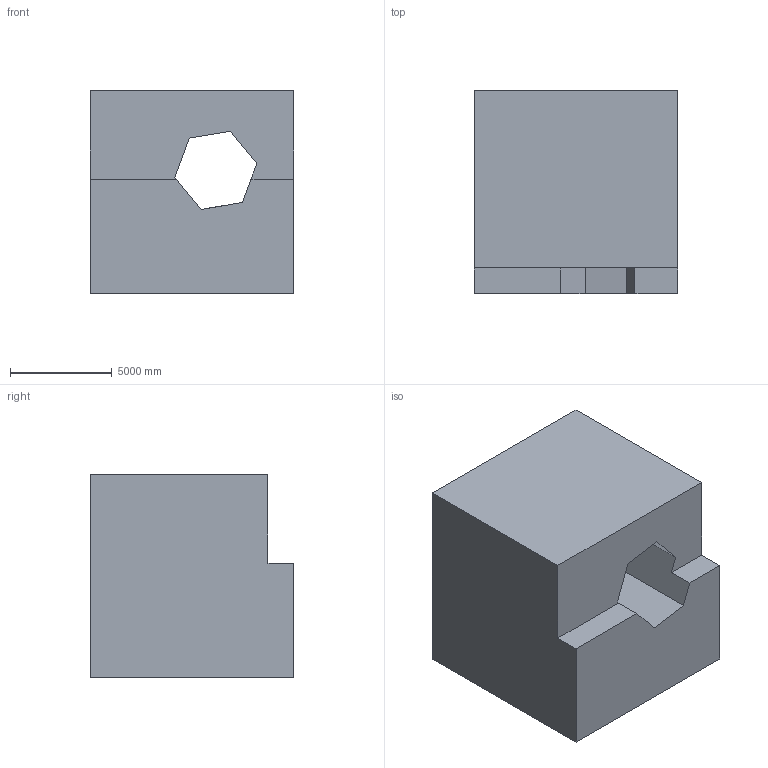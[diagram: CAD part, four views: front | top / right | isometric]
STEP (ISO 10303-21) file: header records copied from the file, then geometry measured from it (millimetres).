
FILE_DESCRIPTION (( 'STEP AP203' ), '1' );
FILE_NAME ('1326.STEP', '2022-08-18T13:47:16', ( 'user' ), ( '' ), 'SwSTEP 2.0', 'SolidWorks 2021', '' );
FILE_SCHEMA (( 'CONFIG_CONTROL_DESIGN' ));
Length unit declared in the file: centimetre
Products named in the file (1): 1326
Bounding box: 10000 x 10000 x 10000 mm (x, y, z)
Volume: 793555747514.1 mm3; surface area: 712507546.1 mm2
Topology: 1 solids, 1 shells, 21 faces, 60 edges, 40 vertices
Faces by surface type: plane 20, cylinder 1
Entity records: 757 total; most frequent: CARTESIAN_POINT 122, ORIENTED_EDGE 120, DIRECTION 106, EDGE_CURVE 60, VECTOR 58, LINE 58, VERTEX_POINT 40, AXIS2_PLACEMENT_3D 24
